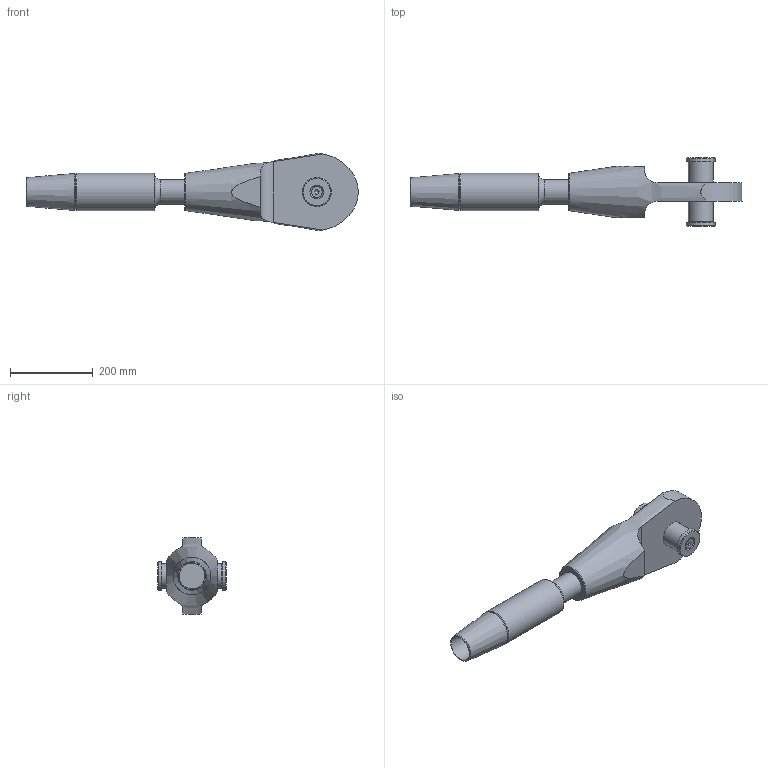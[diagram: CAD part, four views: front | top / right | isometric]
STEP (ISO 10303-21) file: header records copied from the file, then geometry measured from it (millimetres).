
FILE_DESCRIPTION(/* description */ (''),/* implementation_level */ '2;1');
FILE_NAME(/* name */ 'C:\Vault_WS\Designs\SB\01-PX\Verzinkt\ZSS\520 - Zusambau-OES-ADA\520-060-OES-ADA.stp',/* time_stamp */ '2020-10-07T15:40:58+02:00',/* author */ ('schwarz'),/* organization */ (''),/* preprocessor_version */ 'ST-DEVELOPER v18.1',/* originating_system */ 'Autodesk Inventor 2020',/* authorisation */ '');
FILE_SCHEMA (('AUTOMOTIVE_DESIGN { 1 0 10303 214 3 1 1 }'));
Length unit declared in the file: millimetre
Products named in the file (1): 520-060-OES-ADA-Kunde
Bounding box: 803.73 x 166 x 185.65 mm (x, y, z)
Volume: 6128152.4 mm3; surface area: 389915.9 mm2
Topology: 6 solids, 6 shells, 57 faces, 136 edges, 94 vertices
Faces by surface type: plane 26, cylinder 16, cone 13, torus 2
Full cylindrical faces by diameter (mm): 13.835 x1, 14 x1, 17.5 x1, 26.52 x1, 60 x2, 62.5 x1, 63 x1, 70 x2, 90 x1
Entity records: 1923 total; most frequent: CARTESIAN_POINT 442, DIRECTION 296, ORIENTED_EDGE 268, EDGE_CURVE 134, AXIS2_PLACEMENT_3D 126, VERTEX_POINT 94, CIRCLE 68, EDGE_LOOP 66
